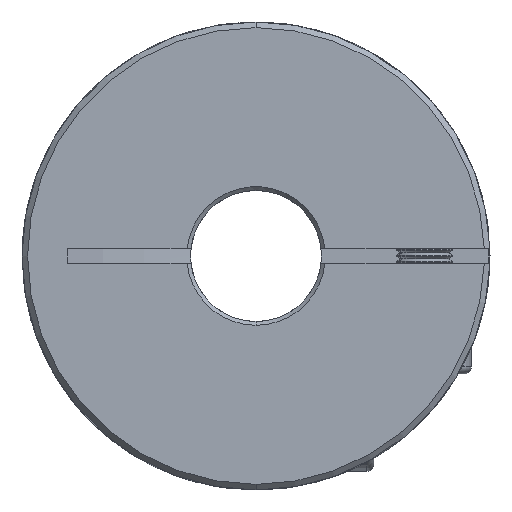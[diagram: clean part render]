
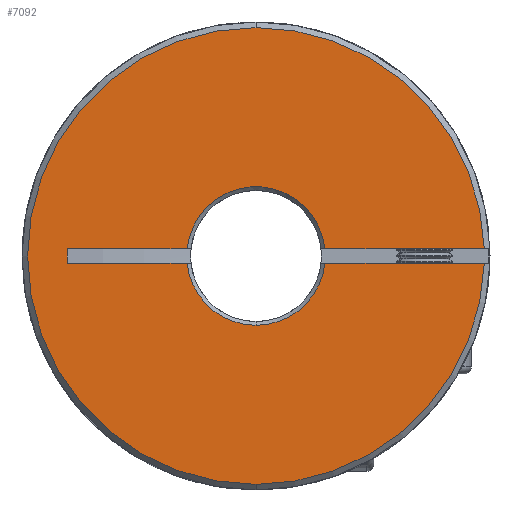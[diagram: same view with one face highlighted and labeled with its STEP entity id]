
A CAD part, front view. The second image highlights one B-rep face of the part: STEP entity #7092.
In plain terms, the highlighted planar face has unit normal (0, -1, 0).
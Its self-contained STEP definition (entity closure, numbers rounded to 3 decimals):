
#78 = CARTESIAN_POINT ( 'NONE',  ( 0., 0., 0. ) ) ;
#588 = CARTESIAN_POINT ( 'NONE',  ( 24.388, 0., 0.75 ) ) ;
#699 = CARTESIAN_POINT ( 'NONE',  ( 0., 0., 0. ) ) ;
#700 = CARTESIAN_POINT ( 'NONE',  ( -20.149, 0., -0.75 ) ) ;
#889 = DIRECTION ( 'NONE',  ( 0., 0., 1. ) ) ;
#972 = AXIS2_PLACEMENT_3D ( 'NONE', #7850, #2360, #3714 ) ;
#1335 = CARTESIAN_POINT ( 'NONE',  ( -50., 0., 0.75 ) ) ;
#1336 = AXIS2_PLACEMENT_3D ( 'NONE', #699, #16800, #8722 ) ;
#1527 = VERTEX_POINT ( 'NONE', #13049 ) ;
#1710 = ORIENTED_EDGE ( 'NONE', *, *, #9709, .T. ) ;
#1837 = DIRECTION ( 'NONE',  ( 0., 0., 1. ) ) ;
#1911 = CARTESIAN_POINT ( 'NONE',  ( 7.362, 0., -0.75 ) ) ;
#1940 = ORIENTED_EDGE ( 'NONE', *, *, #13496, .T. ) ;
#2060 = CARTESIAN_POINT ( 'NONE',  ( 0., 0., -7.4 ) ) ;
#2109 = ORIENTED_EDGE ( 'NONE', *, *, #11164, .F. ) ;
#2194 = AXIS2_PLACEMENT_3D ( 'NONE', #11640, #17059, #889 ) ;
#2360 = DIRECTION ( 'NONE',  ( 0., 1., 0. ) ) ;
#2400 = DIRECTION ( 'NONE',  ( 1., 0., 0. ) ) ;
#2776 = VERTEX_POINT ( 'NONE', #588 ) ;
#3094 = EDGE_CURVE ( 'NONE', #2776, #9556, #4443, .T. ) ;
#3214 = CARTESIAN_POINT ( 'NONE',  ( 24.388, 0., -0.75 ) ) ;
#3707 = ORIENTED_EDGE ( 'NONE', *, *, #3094, .T. ) ;
#3714 = DIRECTION ( 'NONE',  ( 0., 0., 1. ) ) ;
#3733 = DIRECTION ( 'NONE',  ( 0., 0., 1. ) ) ;
#3879 = VERTEX_POINT ( 'NONE', #3214 ) ;
#4088 = CARTESIAN_POINT ( 'NONE',  ( -20.149, 0., 0.75 ) ) ;
#4249 = CARTESIAN_POINT ( 'NONE',  ( 0., 0., 24.4 ) ) ;
#4272 = DIRECTION ( 'NONE',  ( 0., -1., 0. ) ) ;
#4279 = AXIS2_PLACEMENT_3D ( 'NONE', #6515, #10461, #3733 ) ;
#4443 = CIRCLE ( 'NONE', #12577, 24.4 ) ;
#4556 = DIRECTION ( 'NONE',  ( 0., -1., 0. ) ) ;
#4695 = VERTEX_POINT ( 'NONE', #4088 ) ;
#5422 = VECTOR ( 'NONE', #10522, 1000. ) ;
#5777 = CIRCLE ( 'NONE', #972, 7.4 ) ;
#5891 = VERTEX_POINT ( 'NONE', #13597 ) ;
#5897 = DIRECTION ( 'NONE',  ( 0., 0., 1. ) ) ;
#6097 = CARTESIAN_POINT ( 'NONE',  ( 0., 0., 0. ) ) ;
#6266 = CARTESIAN_POINT ( 'NONE',  ( -7.362, 0., -0.75 ) ) ;
#6515 = CARTESIAN_POINT ( 'NONE',  ( -50., 0., 32.858 ) ) ;
#6693 = EDGE_CURVE ( 'NONE', #4695, #1527, #12191, .T. ) ;
#6741 = CARTESIAN_POINT ( 'NONE',  ( -50., 0., -0.75 ) ) ;
#6931 = LINE ( 'NONE', #6741, #16383 ) ;
#7092 = ADVANCED_FACE ( 'NONE', ( #13838 ), #15994, .F. ) ;
#7383 = EDGE_CURVE ( 'NONE', #8635, #4695, #7722, .T. ) ;
#7384 = VERTEX_POINT ( 'NONE', #2060 ) ;
#7722 = LINE ( 'NONE', #700, #9197 ) ;
#7729 = CARTESIAN_POINT ( 'NONE',  ( -20.149, 0., -0.75 ) ) ;
#7738 = EDGE_LOOP ( 'NONE', ( #2109, #1940, #13411, #11286, #11981, #10850, #11050, #9545, #3707, #10902, #1710 ) ) ;
#7850 = CARTESIAN_POINT ( 'NONE',  ( 0., 0., 0. ) ) ;
#8504 = VECTOR ( 'NONE', #2400, 1000. ) ;
#8635 = VERTEX_POINT ( 'NONE', #7729 ) ;
#8645 = EDGE_CURVE ( 'NONE', #7384, #14293, #5777, .T. ) ;
#8722 = DIRECTION ( 'NONE',  ( 0., 0., 1. ) ) ;
#8938 = CIRCLE ( 'NONE', #2194, 7.4 ) ;
#9125 = CARTESIAN_POINT ( 'NONE',  ( -50., 0., -0.75 ) ) ;
#9197 = VECTOR ( 'NONE', #5897, 1000. ) ;
#9306 = CIRCLE ( 'NONE', #11611, 24.4 ) ;
#9545 = ORIENTED_EDGE ( 'NONE', *, *, #10019, .T. ) ;
#9556 = VERTEX_POINT ( 'NONE', #4249 ) ;
#9661 = VECTOR ( 'NONE', #13481, 1000. ) ;
#9709 = EDGE_CURVE ( 'NONE', #5891, #3879, #15140, .T. ) ;
#9840 = EDGE_CURVE ( 'NONE', #1527, #10223, #12209, .T. ) ;
#9972 = LINE ( 'NONE', #9125, #8504 ) ;
#10019 = EDGE_CURVE ( 'NONE', #10223, #2776, #13037, .T. ) ;
#10223 = VERTEX_POINT ( 'NONE', #13942 ) ;
#10461 = DIRECTION ( 'NONE',  ( 0., 1., 0. ) ) ;
#10522 = DIRECTION ( 'NONE',  ( 1., 0., 0. ) ) ;
#10850 = ORIENTED_EDGE ( 'NONE', *, *, #6693, .T. ) ;
#10902 = ORIENTED_EDGE ( 'NONE', *, *, #15535, .T. ) ;
#11050 = ORIENTED_EDGE ( 'NONE', *, *, #9840, .T. ) ;
#11117 = DIRECTION ( 'NONE',  ( 0., 0., 1. ) ) ;
#11164 = EDGE_CURVE ( 'NONE', #12980, #3879, #6931, .T. ) ;
#11286 = ORIENTED_EDGE ( 'NONE', *, *, #13890, .F. ) ;
#11611 = AXIS2_PLACEMENT_3D ( 'NONE', #78, #4272, #11117 ) ;
#11640 = CARTESIAN_POINT ( 'NONE',  ( 0., 0., 0. ) ) ;
#11695 = CARTESIAN_POINT ( 'NONE',  ( -50., 0., 0.75 ) ) ;
#11981 = ORIENTED_EDGE ( 'NONE', *, *, #7383, .T. ) ;
#12191 = LINE ( 'NONE', #11695, #5422 ) ;
#12209 = CIRCLE ( 'NONE', #17052, 7.4 ) ;
#12577 = AXIS2_PLACEMENT_3D ( 'NONE', #6097, #4556, #1837 ) ;
#12949 = CARTESIAN_POINT ( 'NONE',  ( 0., 0., 0. ) ) ;
#12980 = VERTEX_POINT ( 'NONE', #1911 ) ;
#13037 = LINE ( 'NONE', #1335, #9661 ) ;
#13049 = CARTESIAN_POINT ( 'NONE',  ( -7.362, 0., 0.75 ) ) ;
#13411 = ORIENTED_EDGE ( 'NONE', *, *, #8645, .T. ) ;
#13481 = DIRECTION ( 'NONE',  ( 1., 0., 0. ) ) ;
#13496 = EDGE_CURVE ( 'NONE', #12980, #7384, #8938, .T. ) ;
#13597 = CARTESIAN_POINT ( 'NONE',  ( 0., 0., -24.4 ) ) ;
#13838 = FACE_OUTER_BOUND ( 'NONE', #7738, .T. ) ;
#13890 = EDGE_CURVE ( 'NONE', #8635, #14293, #9972, .T. ) ;
#13942 = CARTESIAN_POINT ( 'NONE',  ( 7.362, 0., 0.75 ) ) ;
#14293 = VERTEX_POINT ( 'NONE', #6266 ) ;
#14372 = DIRECTION ( 'NONE',  ( 0., 0., 1. ) ) ;
#14489 = DIRECTION ( 'NONE',  ( 0., 1., 0. ) ) ;
#15140 = CIRCLE ( 'NONE', #1336, 24.4 ) ;
#15535 = EDGE_CURVE ( 'NONE', #9556, #5891, #9306, .T. ) ;
#15994 = PLANE ( 'NONE',  #4279 ) ;
#16149 = DIRECTION ( 'NONE',  ( 1., 0., 0. ) ) ;
#16383 = VECTOR ( 'NONE', #16149, 1000. ) ;
#16800 = DIRECTION ( 'NONE',  ( 0., -1., 0. ) ) ;
#17052 = AXIS2_PLACEMENT_3D ( 'NONE', #12949, #14489, #14372 ) ;
#17059 = DIRECTION ( 'NONE',  ( 0., 1., 0. ) ) ;
